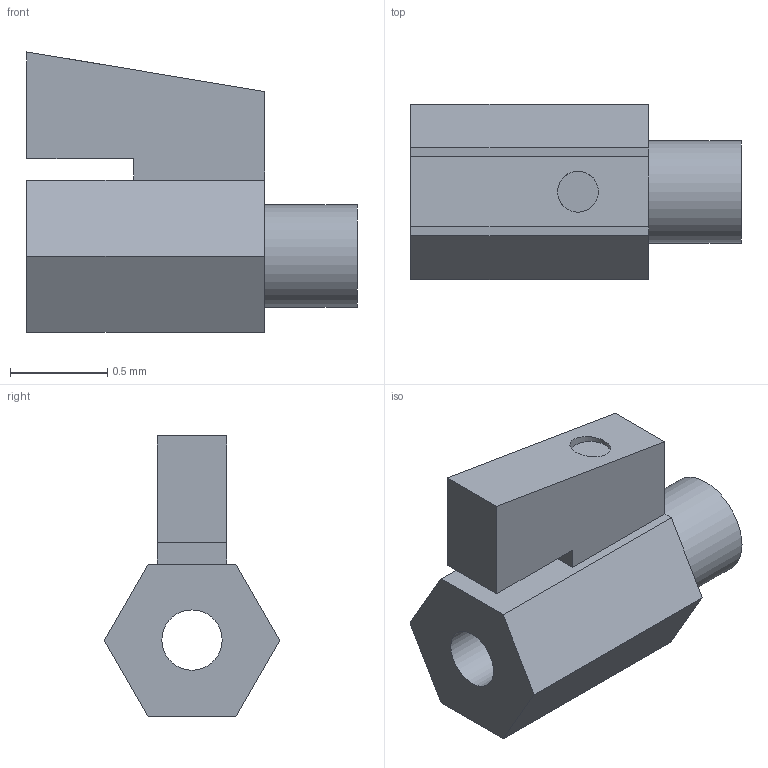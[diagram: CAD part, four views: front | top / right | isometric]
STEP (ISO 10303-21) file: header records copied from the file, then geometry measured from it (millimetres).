
FILE_DESCRIPTION(('Open CASCADE Model'),'2;1');
FILE_NAME('Open CASCADE Shape Model','2021-12-20T15:30:59',('Author'),( 'Open CASCADE'),'Open CASCADE STEP processor 7.3','Open CASCADE 7.3' ,'Unknown');
FILE_SCHEMA(('AUTOMOTIVE_DESIGN { 1 0 10303 214 1 1 1 1 }'));
Length unit declared in the file: millimetre
Products named in the file (1): Open CASCADE STEP translator 7.3 1
Bounding box: 1.7 x 0.9 x 1.44 mm (x, y, z)
Volume: 0.8 mm3; surface area: 8.7 mm2
Topology: 1 solids, 1 shells, 19 faces, 47 edges, 32 vertices
Faces by surface type: plane 16, cylinder 3
Full cylindrical faces by diameter (mm): 0.21 x1, 0.31 x1, 0.527 x1
Entity records: 1240 total; most frequent: CARTESIAN_POINT 262, DIRECTION 181, LINE 120, VECTOR 120, ORIENTED_EDGE 94, PCURVE 94, DEFINITIONAL_REPRESENTATION 94, EDGE_CURVE 47
